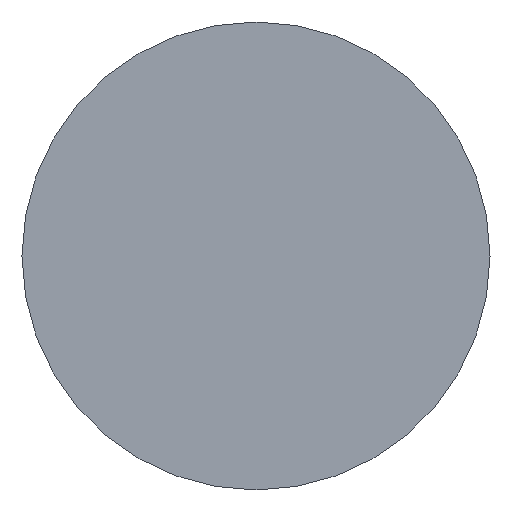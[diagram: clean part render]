
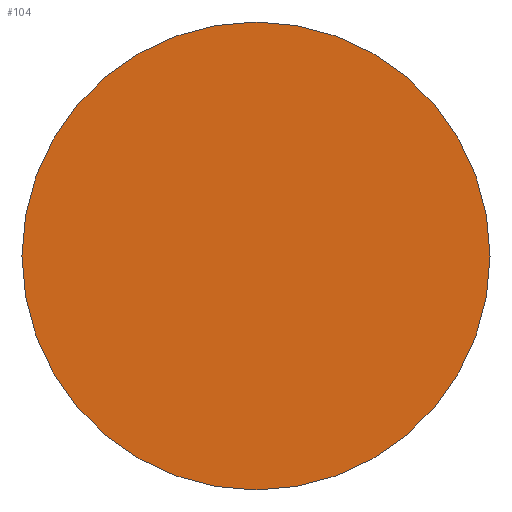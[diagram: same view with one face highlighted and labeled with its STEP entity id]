
A CAD part, front view. The second image highlights one B-rep face of the part: STEP entity #104.
In plain terms, the highlighted planar face has unit normal (0, -1, 0).
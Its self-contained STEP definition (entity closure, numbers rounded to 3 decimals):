
#2 = VERTEX_POINT ( 'NONE', #332 ) ;
#3 = VERTEX_POINT ( 'NONE', #331 ) ;
#9 = EDGE_CURVE ( 'NONE', #3, #2, #323, .T. ) ;
#21 = ORIENTED_EDGE ( 'NONE', *, *, #151, .F. ) ;
#45 = ORIENTED_EDGE ( 'NONE', *, *, #9, .F. ) ;
#49 = EDGE_LOOP ( 'NONE', ( #21, #45 ) ) ;
#104 = ADVANCED_FACE ( 'NONE', ( #1048 ), #1047, .F. ) ;
#151 = EDGE_CURVE ( 'NONE', #2, #3, #395, .T. ) ;
#320 = DIRECTION ( 'NONE',  ( 0., 0., 1. ) ) ;
#321 = DIRECTION ( 'NONE',  ( 0., 1., 0. ) ) ;
#322 = AXIS2_PLACEMENT_3D ( 'NONE', #330, #321, #320 ) ;
#323 = CIRCLE ( 'NONE', #322, 12. ) ;
#330 = CARTESIAN_POINT ( 'NONE',  ( 0., 0., 0. ) ) ;
#331 = CARTESIAN_POINT ( 'NONE',  ( 0., 0., 12. ) ) ;
#332 = CARTESIAN_POINT ( 'NONE',  ( 0., 0., -12. ) ) ;
#391 = DIRECTION ( 'NONE',  ( 0., 0., 1. ) ) ;
#392 = DIRECTION ( 'NONE',  ( 0., 1., 0. ) ) ;
#393 = CARTESIAN_POINT ( 'NONE',  ( 0., 0., 0. ) ) ;
#394 = AXIS2_PLACEMENT_3D ( 'NONE', #393, #392, #391 ) ;
#395 = CIRCLE ( 'NONE', #394, 12. ) ;
#1042 = DIRECTION ( 'NONE',  ( 0., 0., 1. ) ) ;
#1043 = DIRECTION ( 'NONE',  ( 0., 1., 0. ) ) ;
#1044 = CARTESIAN_POINT ( 'NONE',  ( 0., 0., 0. ) ) ;
#1045 = AXIS2_PLACEMENT_3D ( 'NONE', #1044, #1043, #1042 ) ;
#1047 = PLANE ( 'NONE',  #1045 ) ;
#1048 = FACE_OUTER_BOUND ( 'NONE', #49, .T. ) ;
